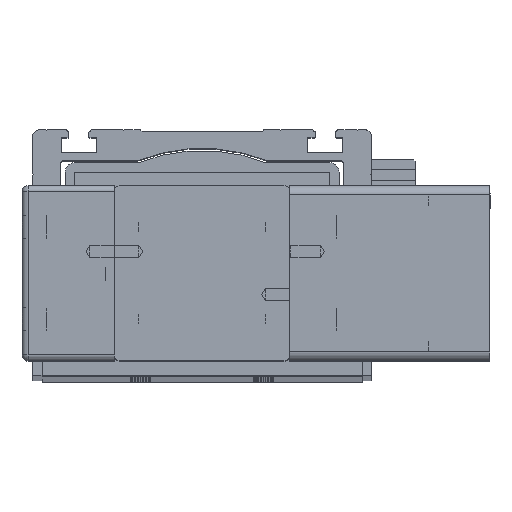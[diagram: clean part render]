
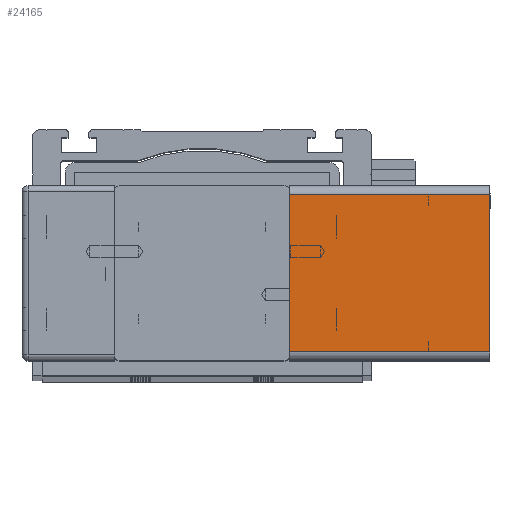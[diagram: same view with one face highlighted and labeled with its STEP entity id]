
A CAD part, top view. The second image highlights one B-rep face of the part: STEP entity #24165.
In plain terms, the highlighted planar face has unit normal (0, 0, 1) as drawn and (-1, 0, 0) by its records, which use the part's own axes.
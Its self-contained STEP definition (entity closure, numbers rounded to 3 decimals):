
#23899=CARTESIAN_POINT('',(0.0,54.0,0.0));
#23900=VERTEX_POINT('',#23899);
#23908=CARTESIAN_POINT('',(0.0,3.,0.0));
#23909=VERTEX_POINT('',#23908);
#23910=CARTESIAN_POINT('',(0.0,54.0,0.0));
#23911=DIRECTION('',(0.0,-1.0,0.0));
#23912=VECTOR('',#23911,51.0);
#23913=LINE('',#23910,#23912);
#23914=EDGE_CURVE('',#23900,#23909,#23913,.T.);
#24048=CARTESIAN_POINT('',(0.0,3.,-65.0));
#24049=VERTEX_POINT('',#24048);
#24066=CARTESIAN_POINT('',(0.0,3.,0.0));
#24067=DIRECTION('',(0.0,0.0,-1.0));
#24068=VECTOR('',#24067,65.0);
#24069=LINE('',#24066,#24068);
#24070=EDGE_CURVE('',#23909,#24049,#24069,.T.);
#24124=CARTESIAN_POINT('',(0.0,54.0,-65.0));
#24125=VERTEX_POINT('',#24124);
#24133=CARTESIAN_POINT('',(0.0,54.0,-65.0));
#24134=DIRECTION('',(0.0,0.0,1.0));
#24135=VECTOR('',#24134,65.0);
#24136=LINE('',#24133,#24135);
#24137=EDGE_CURVE('',#24125,#23900,#24136,.T.);
#24149=CARTESIAN_POINT('',(0.0,57.0,0.0));
#24150=DIRECTION('',(-1.0,0.0,0.0));
#24151=DIRECTION('',(0.0,0.0,1.0));
#24152=AXIS2_PLACEMENT_3D('',#24149,#24150,#24151);
#24153=PLANE('',#24152);
#24154=ORIENTED_EDGE('',*,*,#24070,.F.);
#24155=ORIENTED_EDGE('',*,*,#23914,.F.);
#24156=ORIENTED_EDGE('',*,*,#24137,.F.);
#24157=CARTESIAN_POINT('',(0.0,54.0,-65.0));
#24158=DIRECTION('',(0.0,-1.0,0.0));
#24159=VECTOR('',#24158,51.0);
#24160=LINE('',#24157,#24159);
#24161=EDGE_CURVE('',#24125,#24049,#24160,.T.);
#24162=ORIENTED_EDGE('',*,*,#24161,.T.);
#24163=EDGE_LOOP('',(#24154,#24155,#24156,#24162));
#24164=FACE_OUTER_BOUND('',#24163,.T.);
#24165=ADVANCED_FACE('',(#24164),#24153,.T.);
